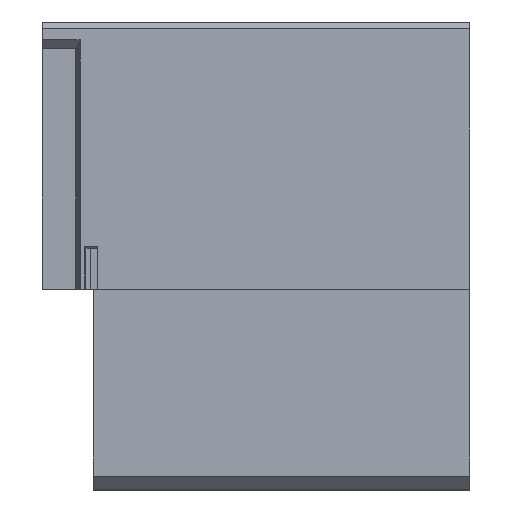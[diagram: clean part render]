
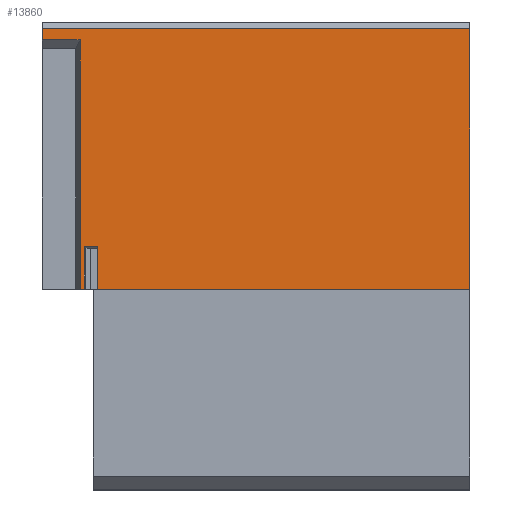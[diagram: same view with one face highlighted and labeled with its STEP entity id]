
A CAD part, top view. The second image highlights one B-rep face of the part: STEP entity #13860.
In plain terms, the highlighted planar face has unit normal (0, 0, 1).
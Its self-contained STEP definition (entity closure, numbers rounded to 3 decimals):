
#940 = ORIENTED_EDGE ( 'NONE', *, *, #23402, .T. ) ;
#1723 = DIRECTION ( 'NONE',  ( 0., 1., 0. ) ) ;
#2077 = DIRECTION ( 'NONE',  ( 0., 0., -1. ) ) ;
#6312 = EDGE_CURVE ( 'NONE', #15345, #97485, #87626, .T. ) ;
#6935 = EDGE_LOOP ( 'NONE', ( #89940, #61620, #940, #105109, #72114, #60168, #107477, #38737, #60224, #99569 ) ) ;
#7282 = VECTOR ( 'NONE', #18488, 1000. ) ;
#8994 = LINE ( 'NONE', #67553, #28518 ) ;
#11468 = PLANE ( 'NONE',  #92976 ) ;
#12265 = VERTEX_POINT ( 'NONE', #105753 ) ;
#13860 = ADVANCED_FACE ( 'NONE', ( #80021 ), #11468, .F. ) ;
#14449 = LINE ( 'NONE', #88545, #78109 ) ;
#14497 = EDGE_CURVE ( 'NONE', #12265, #66695, #57147, .T. ) ;
#15345 = VERTEX_POINT ( 'NONE', #32221 ) ;
#15492 = DIRECTION ( 'NONE',  ( 1., 0., 0. ) ) ;
#18488 = DIRECTION ( 'NONE',  ( -1., 0., 0. ) ) ;
#19561 = CARTESIAN_POINT ( 'NONE',  ( 0., 14.55, 7.7 ) ) ;
#21152 = CARTESIAN_POINT ( 'NONE',  ( 24.95, 0., 7.7 ) ) ;
#21317 = EDGE_CURVE ( 'NONE', #80707, #66695, #49211, .T. ) ;
#23402 = EDGE_CURVE ( 'NONE', #91455, #97485, #100682, .T. ) ;
#25051 = CARTESIAN_POINT ( 'NONE',  ( 24.95, 0., 7.7 ) ) ;
#25838 = VECTOR ( 'NONE', #80933, 1000. ) ;
#28518 = VECTOR ( 'NONE', #43949, 1000. ) ;
#32221 = CARTESIAN_POINT ( 'NONE',  ( 24.95, 15.2, 7.7 ) ) ;
#34816 = VECTOR ( 'NONE', #64923, 1000. ) ;
#36463 = CARTESIAN_POINT ( 'NONE',  ( 2.45, 0., 7.7 ) ) ;
#38206 = EDGE_CURVE ( 'NONE', #12265, #66194, #41406, .T. ) ;
#38737 = ORIENTED_EDGE ( 'NONE', *, *, #38206, .F. ) ;
#41406 = LINE ( 'NONE', #75037, #62258 ) ;
#41736 = DIRECTION ( 'NONE',  ( 0., -1., 0. ) ) ;
#43949 = DIRECTION ( 'NONE',  ( 0., -1., 0. ) ) ;
#46378 = DIRECTION ( 'NONE',  ( 0., 1., 0. ) ) ;
#48087 = VECTOR ( 'NONE', #102828, 1000. ) ;
#48747 = VECTOR ( 'NONE', #15492, 1000. ) ;
#49211 = LINE ( 'NONE', #81297, #25838 ) ;
#51470 = CARTESIAN_POINT ( 'NONE',  ( 0., 14.55, 7.7 ) ) ;
#51822 = CARTESIAN_POINT ( 'NONE',  ( 0., 0., 7.7 ) ) ;
#57147 = LINE ( 'NONE', #102475, #48087 ) ;
#58555 = EDGE_CURVE ( 'NONE', #79593, #91455, #8994, .T. ) ;
#60168 = ORIENTED_EDGE ( 'NONE', *, *, #85021, .F. ) ;
#60224 = ORIENTED_EDGE ( 'NONE', *, *, #14497, .T. ) ;
#61620 = ORIENTED_EDGE ( 'NONE', *, *, #58555, .T. ) ;
#62258 = VECTOR ( 'NONE', #1723, 1000. ) ;
#62357 = CARTESIAN_POINT ( 'NONE',  ( 2.205, 14.55, 7.7 ) ) ;
#62990 = LINE ( 'NONE', #87044, #104544 ) ;
#63705 = EDGE_CURVE ( 'NONE', #99082, #15345, #91969, .T. ) ;
#64511 = LINE ( 'NONE', #19561, #7282 ) ;
#64923 = DIRECTION ( 'NONE',  ( 1., 0., 0. ) ) ;
#65064 = EDGE_CURVE ( 'NONE', #66194, #80261, #64511, .T. ) ;
#65245 = CARTESIAN_POINT ( 'NONE',  ( 0., 0., 7.7 ) ) ;
#66194 = VERTEX_POINT ( 'NONE', #62357 ) ;
#66695 = VERTEX_POINT ( 'NONE', #36463 ) ;
#67553 = CARTESIAN_POINT ( 'NONE',  ( 3.225, 15.2, 7.7 ) ) ;
#68822 = DIRECTION ( 'NONE',  ( -1., 0., 0. ) ) ;
#72114 = ORIENTED_EDGE ( 'NONE', *, *, #63705, .F. ) ;
#75037 = CARTESIAN_POINT ( 'NONE',  ( 2.205, 0., 7.7 ) ) ;
#78109 = VECTOR ( 'NONE', #90000, 1000. ) ;
#79429 = CARTESIAN_POINT ( 'NONE',  ( 0., 15.2, 7.7 ) ) ;
#79593 = VERTEX_POINT ( 'NONE', #82790 ) ;
#80021 = FACE_OUTER_BOUND ( 'NONE', #6935, .T. ) ;
#80261 = VERTEX_POINT ( 'NONE', #51470 ) ;
#80707 = VERTEX_POINT ( 'NONE', #83610 ) ;
#80933 = DIRECTION ( 'NONE',  ( 0., -1., 0. ) ) ;
#81297 = CARTESIAN_POINT ( 'NONE',  ( 2.45, 0., 7.7 ) ) ;
#82790 = CARTESIAN_POINT ( 'NONE',  ( 3.225, 2.5, 7.7 ) ) ;
#83610 = CARTESIAN_POINT ( 'NONE',  ( 2.45, 2.5, 7.7 ) ) ;
#85021 = EDGE_CURVE ( 'NONE', #80261, #99082, #62990, .T. ) ;
#86853 = EDGE_CURVE ( 'NONE', #79593, #80707, #14449, .T. ) ;
#87044 = CARTESIAN_POINT ( 'NONE',  ( 0., 31.61, 7.7 ) ) ;
#87626 = LINE ( 'NONE', #25051, #104482 ) ;
#88545 = CARTESIAN_POINT ( 'NONE',  ( 0., 2.5, 7.7 ) ) ;
#89940 = ORIENTED_EDGE ( 'NONE', *, *, #86853, .F. ) ;
#90000 = DIRECTION ( 'NONE',  ( -1., 0., 0. ) ) ;
#91455 = VERTEX_POINT ( 'NONE', #94716 ) ;
#91969 = LINE ( 'NONE', #79429, #34816 ) ;
#92976 = AXIS2_PLACEMENT_3D ( 'NONE', #51822, #2077, #68822 ) ;
#94460 = CARTESIAN_POINT ( 'NONE',  ( 0., 15.2, 7.7 ) ) ;
#94716 = CARTESIAN_POINT ( 'NONE',  ( 3.225, 0., 7.7 ) ) ;
#97485 = VERTEX_POINT ( 'NONE', #21152 ) ;
#99082 = VERTEX_POINT ( 'NONE', #94460 ) ;
#99569 = ORIENTED_EDGE ( 'NONE', *, *, #21317, .F. ) ;
#100682 = LINE ( 'NONE', #65245, #48747 ) ;
#102475 = CARTESIAN_POINT ( 'NONE',  ( 0., 0., 7.7 ) ) ;
#102828 = DIRECTION ( 'NONE',  ( 1., 0., 0. ) ) ;
#104482 = VECTOR ( 'NONE', #41736, 1000. ) ;
#104544 = VECTOR ( 'NONE', #46378, 1000. ) ;
#105109 = ORIENTED_EDGE ( 'NONE', *, *, #6312, .F. ) ;
#105753 = CARTESIAN_POINT ( 'NONE',  ( 2.205, 0., 7.7 ) ) ;
#107477 = ORIENTED_EDGE ( 'NONE', *, *, #65064, .F. ) ;
